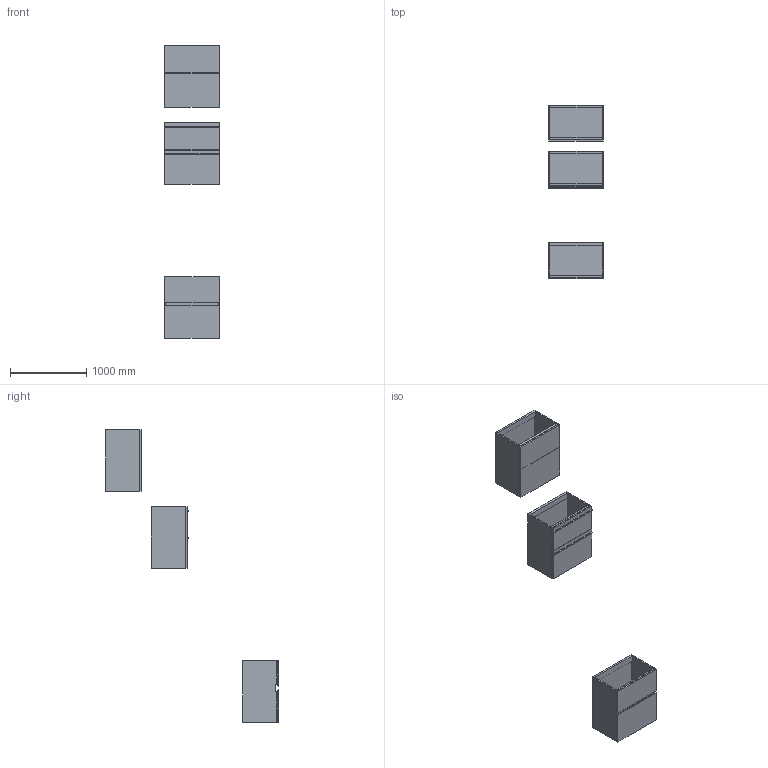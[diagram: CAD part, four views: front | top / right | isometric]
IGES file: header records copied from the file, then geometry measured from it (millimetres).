
Start section: Data from Parasolid IGES Translator 19.0.9, Copyright(c) 2006 Siemens PL M Software. All Rights Reserved.
Global section: file name: noorth-SI-H 81,2 D 47 W 72_8690.igs; native system: By Siemens PLM Incorporated; preprocessor: XPlus GENERIC/IGES 19.0.9; author: Noname; organization: Noname; date: 20200601.140429; units: metre
Bounding box: 720 x 2270 x 3842 mm (x, y, z)
Volume: 93318952 mm3; surface area: 14419700.1 mm2
Topology: 27 solids, 27 shells, 266 faces, 580 edges, 348 vertices
Faces by surface type: plane 182, extrusion 36, bspline 32, cylinder 16
